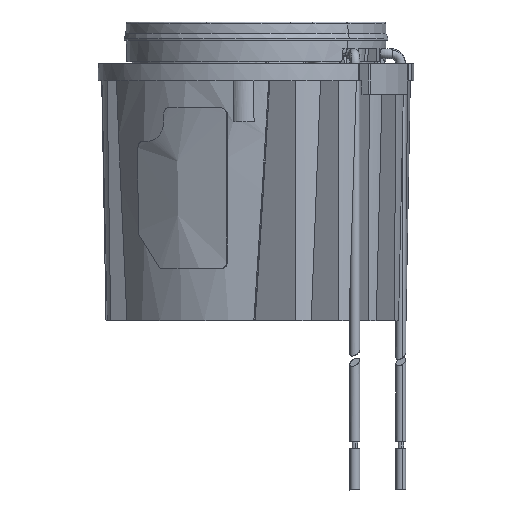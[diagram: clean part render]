
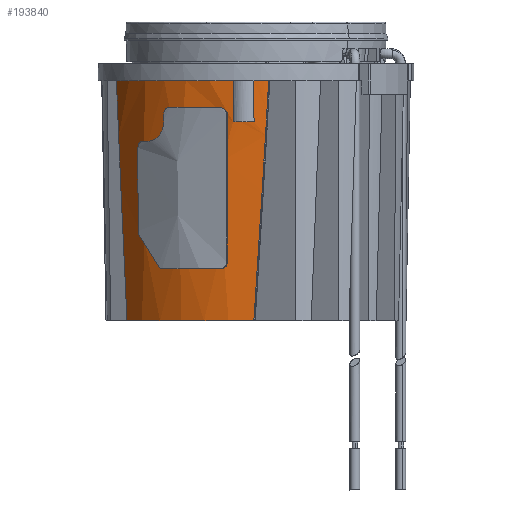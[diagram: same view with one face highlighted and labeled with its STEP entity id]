
A CAD part, left-side view. The second image highlights one B-rep face of the part: STEP entity #193840.
In plain terms, the highlighted conical face has half-angle 1 degrees and reference radius 22.195 mm.
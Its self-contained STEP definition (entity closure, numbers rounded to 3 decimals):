
#179680=CARTESIAN_POINT('',(18.5,-12.806,
4.));
#179690=VERTEX_POINT('',#179680);
#179720=CARTESIAN_POINT('',(0.,0.,4.));
#179730=DIRECTION('',(0.,0.,-1.));
#179740=DIRECTION('',(0.875,-0.484,0.));
#179750=AXIS2_PLACEMENT_3D('',#179720,#179730,#179740);
#179760=CIRCLE('',#179750,22.5);
#179770=CARTESIAN_POINT('',(19.692,-10.884,4.));
#179780=VERTEX_POINT('',#179770);
#179790=EDGE_CURVE('',#179780,#179690,#179760,.T.);
#179860=CARTESIAN_POINT('',(20.897,-8.342,
4.));
#179870=VERTEX_POINT('',#179860);
#179900=CARTESIAN_POINT('',(0.,0.,4.));
#179910=DIRECTION('',(0.,0.,-1.));
#179920=DIRECTION('',(0.822,0.569,0.));
#179930=AXIS2_PLACEMENT_3D('',#179900,#179910,#179920);
#179940=CIRCLE('',#179930,22.5);
#179950=CARTESIAN_POINT('',(18.5,12.806,4.));
#179960=VERTEX_POINT('',#179950);
#179970=EDGE_CURVE('',#179960,#179870,#179940,.T.);
#186560=CARTESIAN_POINT('',(18.64,12.351,12.)
);
#186570=CARTESIAN_POINT('',(18.619,12.421,10.792
));
#186580=CARTESIAN_POINT('',(18.572,12.574,8.126
));
#186590=CARTESIAN_POINT('',(18.525,12.725,5.459))
;
#186600=CARTESIAN_POINT('',(18.5,12.806,4.));
#186610=B_SPLINE_CURVE_WITH_KNOTS('',3,(#186560,#186570,#186580,#186590,
#186600),.UNSPECIFIED.,.F.,.F.,(4,1,4),(0.,0.453,1.),
.UNSPECIFIED.);
#186620=CARTESIAN_POINT('',(18.64,12.351,12.)
);
#186630=VERTEX_POINT('',#186620);
#186640=EDGE_CURVE('',#186630,#179960,#186610,.T.);
#186660=CARTESIAN_POINT('',(18.779,11.879,20.)
);
#186670=CARTESIAN_POINT('',(18.763,11.936,19.043)
);
#186680=CARTESIAN_POINT('',(18.72,12.081,16.628)
);
#186690=CARTESIAN_POINT('',(18.674,12.237,13.961)
);
#186700=CARTESIAN_POINT('',(18.644,12.337,12.251
));
#186710=CARTESIAN_POINT('',(18.64,12.351,12.)
);
#186720=B_SPLINE_CURVE_WITH_KNOTS('',3,(#186660,#186670,#186680,#186690,
#186700,#186710),.UNSPECIFIED.,.F.,.F.,(4,1,1,4),(0.,0.359,
0.906,1.),.UNSPECIFIED.);
#186730=CARTESIAN_POINT('',(18.779,11.879,20.)
);
#186740=VERTEX_POINT('',#186730);
#186750=EDGE_CURVE('',#186740,#186630,#186720,.T.);
#186770=CARTESIAN_POINT('',(19.111,10.673,39.));
#186780=CARTESIAN_POINT('',(19.085,10.77,37.543)
);
#186790=CARTESIAN_POINT('',(19.035,10.963,34.628
));
#186800=CARTESIAN_POINT('',(18.958,11.245,30.255
));
#186810=CARTESIAN_POINT('',(18.882,11.52,25.881
));
#186820=CARTESIAN_POINT('',(18.822,11.73,22.462
));
#186830=CARTESIAN_POINT('',(18.788,11.848,20.502
));
#186840=CARTESIAN_POINT('',(18.779,11.879,20.)
);
#186850=B_SPLINE_CURVE_WITH_KNOTS('',3,(#186770,#186780,#186790,#186800,
#186810,#186820,#186830,#186840),.UNSPECIFIED.,.F.,.F.,(4,1,1,1,1,4),(0.
,0.23,0.46,0.691,0.921,1.),
.UNSPECIFIED.);
#186860=CARTESIAN_POINT('',(19.111,10.673,39.));
#186870=VERTEX_POINT('',#186860);
#186880=EDGE_CURVE('',#186870,#186740,#186850,.T.);
#191960=CARTESIAN_POINT('',(0.,0.,39.));
#191970=DIRECTION('',(0.,0.,-1.));
#191980=DIRECTION('',(0.873,0.488,0.));
#191990=AXIS2_PLACEMENT_3D('',#191960,#191970,#191980);
#192000=CIRCLE('',#191990,21.889);
#192010=CARTESIAN_POINT('',(19.111,-10.673,39.));
#192020=VERTEX_POINT('',#192010);
#192030=EDGE_CURVE('',#186870,#192020,#192000,.T.);
#193020=CARTESIAN_POINT('',(0.,0.,21.5));
#193030=DIRECTION('',(0.,0.,-1.));
#193040=DIRECTION('',(-1.,0.,-0.));
#193050=AXIS2_PLACEMENT_3D('',#193020,#193030,#193040);
#193060=CONICAL_SURFACE('',#193050,22.195,0.017);
#193070=ORIENTED_EDGE('',*,*,#186640,.F.);
#193080=ORIENTED_EDGE('',*,*,#179970,.F.);
#193090=CARTESIAN_POINT('',(20.897,-8.342,4.));
#193100=CARTESIAN_POINT('',(20.892,-8.322,
4.666));
#193110=CARTESIAN_POINT('',(20.882,-8.284,5.998
));
#193120=CARTESIAN_POINT('',(20.867,-8.228,
7.998));
#193130=CARTESIAN_POINT('',(20.856,-8.192,
9.333));
#193140=CARTESIAN_POINT('',(20.85,-8.175,10.));
#193150=B_SPLINE_CURVE_WITH_KNOTS('',3,(#193090,#193100,#193110,#193120,
#193130,#193140),.UNSPECIFIED.,.F.,.F.,(4,1,1,4),(0.,0.333,
0.667,1.),.UNSPECIFIED.);
#193160=CARTESIAN_POINT('',(20.85,-8.175,10.));
#193170=VERTEX_POINT('',#193160);
#193180=EDGE_CURVE('',#179870,#193170,#193150,.T.);
#193190=ORIENTED_EDGE('',*,*,#193180,.F.);
#193200=CARTESIAN_POINT('',(0.,0.,10.));
#193210=DIRECTION('',(0.,0.,-1.));
#193220=DIRECTION('',(0.931,-0.365,0.));
#193230=AXIS2_PLACEMENT_3D('',#193200,#193210,#193220);
#193240=CIRCLE('',#193230,22.395);
#193250=CARTESIAN_POINT('',(19.533,-10.954,10.));
#193260=VERTEX_POINT('',#193250);
#193270=EDGE_CURVE('',#193170,#193260,#193240,.T.);
#193280=ORIENTED_EDGE('',*,*,#193270,.F.);
#193290=CARTESIAN_POINT('',(19.533,-10.954,10.));
#193300=CARTESIAN_POINT('',(19.551,-10.948,
9.333));
#193310=CARTESIAN_POINT('',(19.585,-10.933,
7.998));
#193320=CARTESIAN_POINT('',(19.638,-10.91,5.998
));
#193330=CARTESIAN_POINT('',(19.674,-10.893,
4.666));
#193340=CARTESIAN_POINT('',(19.692,-10.884,4.));
#193350=B_SPLINE_CURVE_WITH_KNOTS('',3,(#193290,#193300,#193310,#193320,
#193330,#193340),.UNSPECIFIED.,.F.,.F.,(4,1,1,4),(0.,0.333,
0.667,1.),.UNSPECIFIED.);
#193360=EDGE_CURVE('',#193260,#179780,#193350,.T.);
#193370=ORIENTED_EDGE('',*,*,#193360,.F.);
#193380=ORIENTED_EDGE('',*,*,#179790,.F.);
#193390=CARTESIAN_POINT('',(18.5,-12.806,
4.));
#193400=CARTESIAN_POINT('',(18.525,-12.725,5.459
));
#193410=CARTESIAN_POINT('',(18.551,-12.642,
6.918));
#193420=CARTESIAN_POINT('',(18.576,-12.559,8.376
));
#193430=B_SPLINE_CURVE_WITH_KNOTS('',3,(#193390,#193400,#193410,#193420)
,.UNSPECIFIED.,.F.,.F.,(4,4),(0.,1.),.UNSPECIFIED.);
#193440=CARTESIAN_POINT('',(18.576,-12.559,8.376
));
#193450=VERTEX_POINT('',#193440);
#193460=EDGE_CURVE('',#179690,#193450,#193430,.T.);
#193470=ORIENTED_EDGE('',*,*,#193460,.F.);
#193480=CARTESIAN_POINT('',(18.64,-12.351,12.
));
#193490=CARTESIAN_POINT('',(18.619,-12.421,
10.792));
#193500=CARTESIAN_POINT('',(18.597,-12.49,9.584));
#193510=CARTESIAN_POINT('',(18.576,-12.559,8.376
));
#193520=B_SPLINE_CURVE_WITH_KNOTS('',3,(#193480,#193490,#193500,#193510)
,.UNSPECIFIED.,.F.,.F.,(4,4),(0.,1.),.UNSPECIFIED.);
#193530=CARTESIAN_POINT('',(18.64,-12.351,12.
));
#193540=VERTEX_POINT('',#193530);
#193550=EDGE_CURVE('',#193540,#193450,#193520,.T.);
#193560=ORIENTED_EDGE('',*,*,#193550,.T.);
#193570=CARTESIAN_POINT('',(18.64,-12.351,12.
));
#193580=CARTESIAN_POINT('',(18.644,-12.337,
12.251));
#193590=CARTESIAN_POINT('',(18.674,-12.237,
13.96));
#193600=CARTESIAN_POINT('',(18.72,-12.081,
16.627));
#193610=CARTESIAN_POINT('',(18.763,-11.936,19.043
));
#193620=CARTESIAN_POINT('',(18.779,-11.878,20.
));
#193630=B_SPLINE_CURVE_WITH_KNOTS('',3,(#193570,#193580,#193590,#193600,
#193610,#193620),.UNSPECIFIED.,.F.,.F.,(4,1,1,4),(0.,0.094,
0.641,1.),.UNSPECIFIED.);
#193640=CARTESIAN_POINT('',(18.779,-11.878,20.
));
#193650=VERTEX_POINT('',#193640);
#193660=EDGE_CURVE('',#193540,#193650,#193630,.T.);
#193670=ORIENTED_EDGE('',*,*,#193660,.F.);
#193680=CARTESIAN_POINT('',(19.111,-10.673,39.));
#193690=CARTESIAN_POINT('',(19.085,-10.77,
37.542));
#193700=CARTESIAN_POINT('',(19.035,-10.963,
34.627));
#193710=CARTESIAN_POINT('',(18.958,-11.245,30.252
));
#193720=CARTESIAN_POINT('',(18.882,-11.52,25.878)
);
#193730=CARTESIAN_POINT('',(18.822,-11.73,
22.46));
#193740=CARTESIAN_POINT('',(18.788,-11.848,
20.501));
#193750=CARTESIAN_POINT('',(18.779,-11.878,20.
));
#193760=B_SPLINE_CURVE_WITH_KNOTS('',3,(#193680,#193690,#193700,#193710,
#193720,#193730,#193740,#193750),.UNSPECIFIED.,.F.,.F.,(4,1,1,1,1,4),(0.
,0.23,0.46,0.691,0.921,1.),
.UNSPECIFIED.);
#193770=EDGE_CURVE('',#192020,#193650,#193760,.T.);
#193780=ORIENTED_EDGE('',*,*,#193770,.T.);
#193790=ORIENTED_EDGE('',*,*,#192030,.T.);
#193800=ORIENTED_EDGE('',*,*,#186880,.F.);
#193810=ORIENTED_EDGE('',*,*,#186750,.F.);
#193820=EDGE_LOOP('',(#193810,#193800,#193790,#193780,#193670,#193560,
#193470,#193380,#193370,#193280,#193190,#193080,#193070));
#193830=FACE_OUTER_BOUND('',#193820,.T.);
#193840=ADVANCED_FACE('',(#193830),#193060,.T.);
